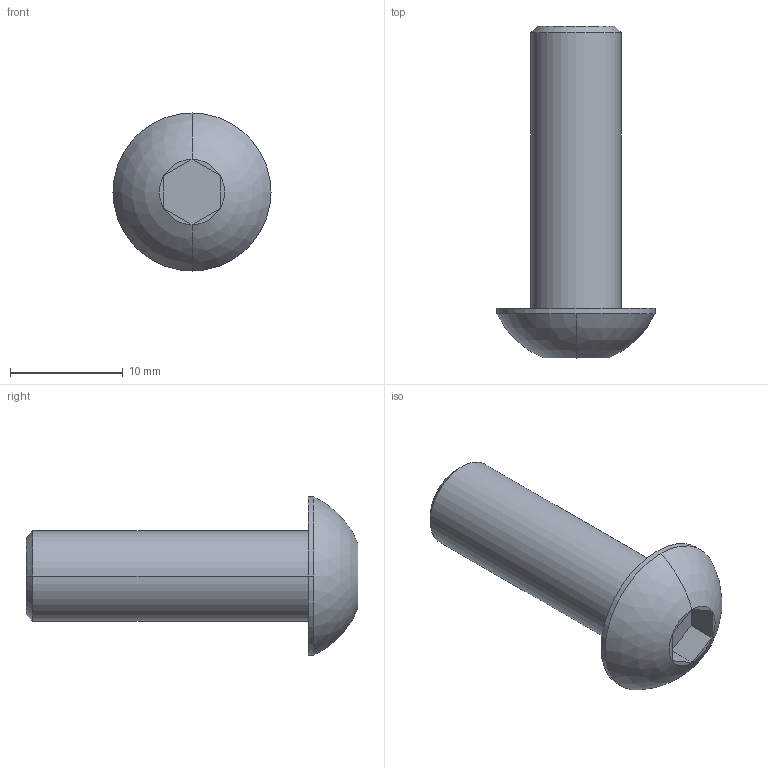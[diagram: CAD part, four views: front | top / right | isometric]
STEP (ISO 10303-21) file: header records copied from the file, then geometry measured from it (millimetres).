
FILE_DESCRIPTION((''),'2;1');
FILE_NAME('VTBEI0825','2002-12-27T',('Lipro doo'),('Lipro d.o.o.'),'PRO/ENGINEER BY PARAMETRIC TECHNOLOGY CORPORATION, 2001150','PRO/ENGINEER BY PARAMETRIC TECHNOLOGY CORPORATION, 2001150','');
FILE_SCHEMA(('CONFIG_CONTROL_DESIGN'));
Length unit declared in the file: millimetre
Products named in the file (1): VTBEI0825
Bounding box: 14 x 29.4 x 14 mm (x, y, z)
Volume: 1655.3 mm3; surface area: 1589.5 mm2
Topology: 1 solids, 2 shells, 25 faces, 50 edges, 28 vertices
Faces by surface type: plane 15, cylinder 6, cone 2, sphere 2
Entity records: 684 total; most frequent: DIRECTION 126, CARTESIAN_POINT 104, ORIENTED_EDGE 96, AXIS2_PLACEMENT_3D 50, EDGE_CURVE 50, VERTEX_POINT 28, VECTOR 26, LINE 26
